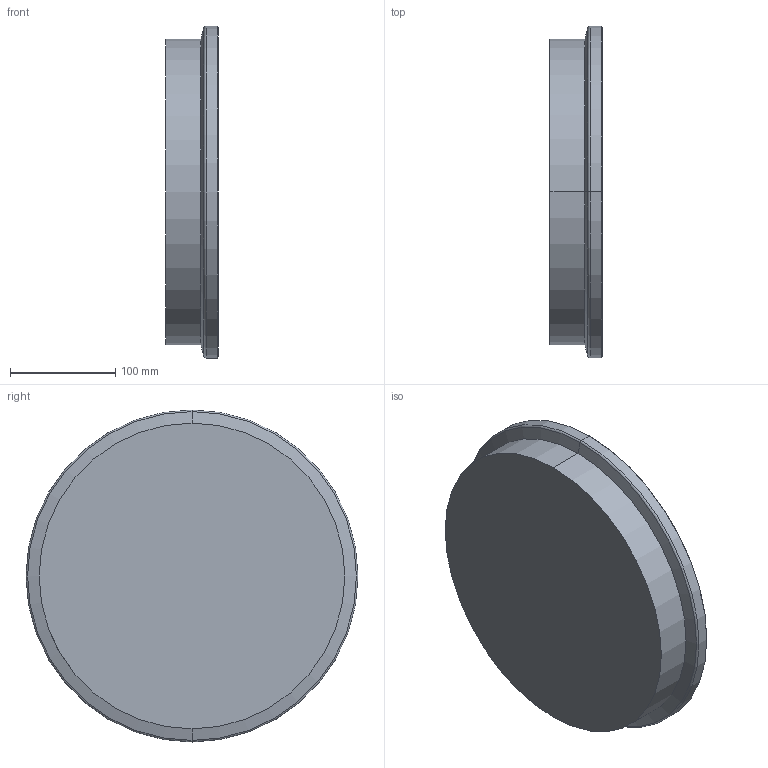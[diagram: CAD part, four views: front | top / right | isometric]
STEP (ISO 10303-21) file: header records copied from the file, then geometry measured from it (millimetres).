
FILE_DESCRIPTION (( 'STEP AP203' ), '1' );
FILE_NAME ('IRB8700-MH3_800-350_IRC5_rev00_LINK6_CAD.STEP', '2015-06-04T08:19:06', ( 'ABB' ), ( 'ABB' ), 'SwSTEP 2.0', 'SolidWorks 2014', '' );
FILE_SCHEMA (( 'CONFIG_CONTROL_DESIGN' ));
Length unit declared in the file: millimetre
Products named in the file (1): IRB8700-MH3_800-350_IRC5_rev00_LINK6_CAD
Bounding box: 49.5 x 315 x 315 mm (x, y, z)
Volume: 3112012.5 mm3; surface area: 225058.2 mm2
Topology: 1 solids, 1 shells, 142 faces, 326 edges, 173 vertices
Faces by surface type: cone 76, cylinder 46, torus 10, plane 10
Entity records: 3991 total; most frequent: CARTESIAN_POINT 824, DIRECTION 712, ORIENTED_EDGE 584, EDGE_CURVE 292, AXIS2_PLACEMENT_3D 289, VERTEX_POINT 173, EDGE_LOOP 163, CIRCLE 146
